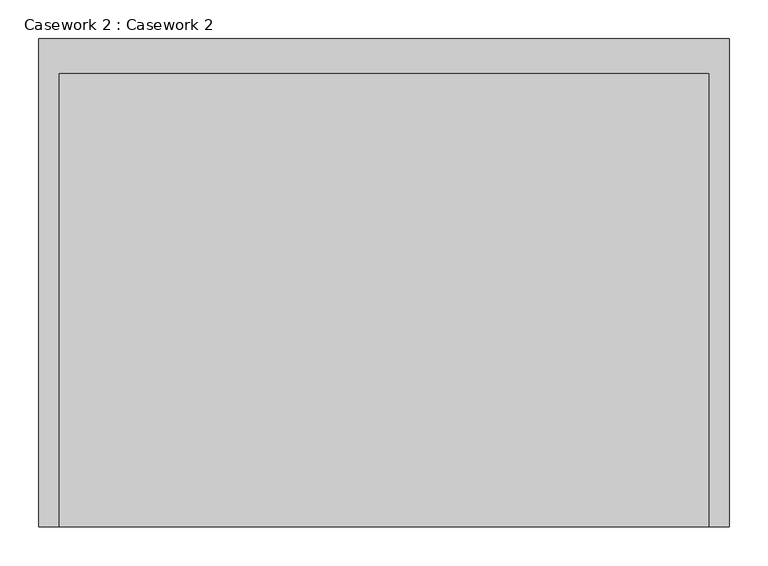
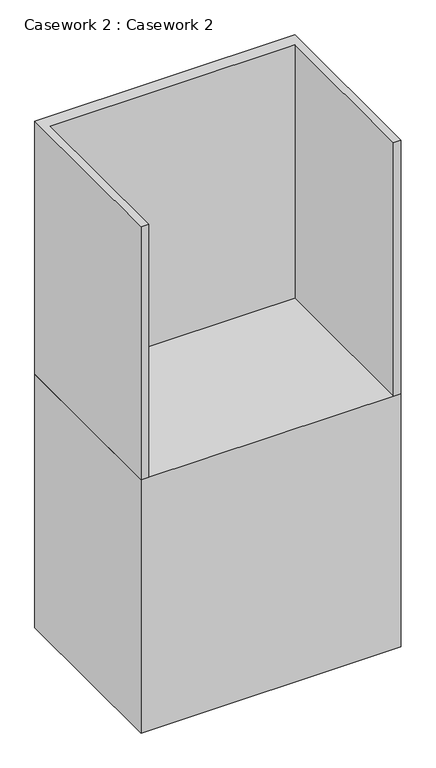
"""IFC4 building model written with IfcOpenShell, lengths in millimetres: furniture geometry, Casework 2 : Casework 2."""

from ifc_helpers import new_model, si_unit, frame, origin, place, context, project, spatial, polyline, outline, extrude, source, transform, mapped, element, save


def casework_2_casework_2_51e8f1bf(model_context):
    return source(origin(), model_context, "Body", "SweptSolid", [
        extrude(outline(polyline([(736.4972395, 10045.7), (1625.4972395, 10045.7), (1625.4972395, 9417.05), (1600.0972395, 9417.05), (1600.0972395, 10001.25), (761.8972395, 10001.25), (761.8972395, 9417.05), (736.4972395, 9417.05), (736.4972395, 10045.7)])), frame((0.0, 0.0, 4262.4), z_axis=(0.0, 0.0, 1.0), x_axis=(1.0, 0.0, 0.0)), (0.0, 0.0, 1.0), 914.4),
        extrude(outline(polyline([(736.4972395, 10045.7), (1625.4972395, 10045.7), (1625.4972395, 9417.05), (736.4972395, 9417.05), (736.4972395, 10045.7)])), frame((0.0, 0.0, 3348.0), z_axis=(0.0, 0.0, 1.0), x_axis=(1.0, 0.0, 0.0)), (0.0, 0.0, 1.0), 914.4),
    ])


if __name__ == "__main__":
    model = new_model("IFC4")
    model_context = context("Model", 3, world=origin())
    ifc_project = project(units=[si_unit("LENGTHUNIT", "METRE", prefix="MILLI")], contexts=[model_context])
    site = spatial("IfcSite", under=ifc_project)
    building = spatial("IfcBuilding", under=site)
    placement = place(None, origin())
    casework_2_casework_2_shape = casework_2_casework_2_51e8f1bf(model_context)
    element("IfcFurniture", 1, ObjectType="Casework 2 : Casework 2", at=placement, inside=building, context=model_context, shape_type="MappedRepresentation", body=[
        mapped(casework_2_casework_2_shape, transform((0.0, 0.0, 0.0), x_axis=(1.0, 0.0, 0.0), y_axis=(0.0, 1.0, 0.0), z_axis=(0.0, 0.0, 1.0))),
    ])
    save(model, "model.ifc")
